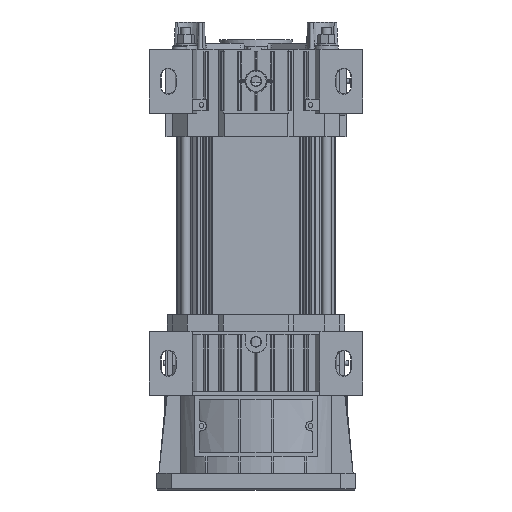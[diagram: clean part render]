
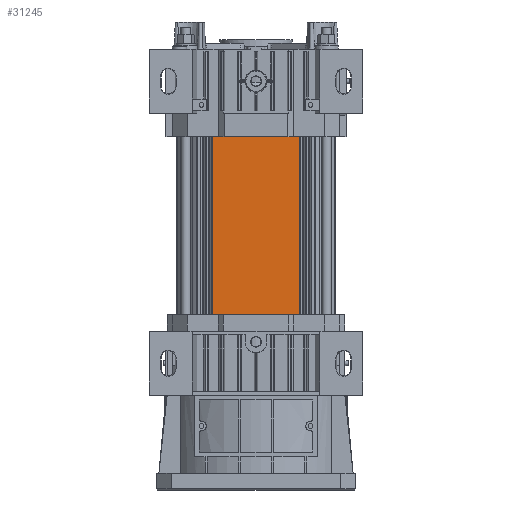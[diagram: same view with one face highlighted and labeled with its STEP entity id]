
A CAD part, front view. The second image highlights one B-rep face of the part: STEP entity #31245.
In plain terms, the highlighted planar face has unit normal (0, -1, 0).
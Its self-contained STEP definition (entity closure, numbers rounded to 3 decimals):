
#3449=LINE('',#53710,#6361);
#3685=LINE('',#54453,#6597);
#3686=LINE('',#54456,#6598);
#3687=LINE('',#54457,#6599);
#6361=VECTOR('',#42557,10.);
#6597=VECTOR('',#43311,10.);
#6598=VECTOR('',#43316,10.);
#6599=VECTOR('',#43317,10.);
#7604=PLANE('',#34371);
#9456=FACE_OUTER_BOUND('',#11317,.T.);
#11317=EDGE_LOOP('',(#28896,#28897,#28898,#28899));
#15387=VERTEX_POINT('',#53703);
#15390=VERTEX_POINT('',#53708);
#15637=VERTEX_POINT('',#54450);
#15638=VERTEX_POINT('',#54452);
#19779=EDGE_CURVE('',#15390,#15387,#3449,.T.);
#20150=EDGE_CURVE('',#15638,#15637,#3685,.T.);
#20152=EDGE_CURVE('',#15637,#15387,#3686,.T.);
#20153=EDGE_CURVE('',#15390,#15638,#3687,.T.);
#28896=ORIENTED_EDGE('',*,*,#20152,.T.);
#28897=ORIENTED_EDGE('',*,*,#19779,.F.);
#28898=ORIENTED_EDGE('',*,*,#20153,.T.);
#28899=ORIENTED_EDGE('',*,*,#20150,.T.);
#31245=ADVANCED_FACE('',(#9456),#7604,.T.);
#34371=AXIS2_PLACEMENT_3D('',#54455,#43314,#43315);
#42557=DIRECTION('',(0.,0.,1.));
#43311=DIRECTION('',(0.,0.,1.));
#43314=DIRECTION('center_axis',(0.,-1.,0.));
#43315=DIRECTION('ref_axis',(0.,0.,-1.));
#43316=DIRECTION('',(-1.,0.,0.));
#43317=DIRECTION('',(1.,0.,0.));
#53703=CARTESIAN_POINT('',(6506.45,-1976.3,160.));
#53708=CARTESIAN_POINT('',(6506.45,-1976.3,0.));
#53710=CARTESIAN_POINT('',(6506.45,-1976.3,0.));
#54450=CARTESIAN_POINT('',(6580.572,-1976.3,160.));
#54452=CARTESIAN_POINT('',(6580.572,-1976.3,0.));
#54453=CARTESIAN_POINT('',(6580.572,-1976.3,0.));
#54455=CARTESIAN_POINT('Origin',(6580.572,-1976.3,0.));
#54456=CARTESIAN_POINT('',(6506.45,-1976.3,160.));
#54457=CARTESIAN_POINT('',(6506.45,-1976.3,0.));
